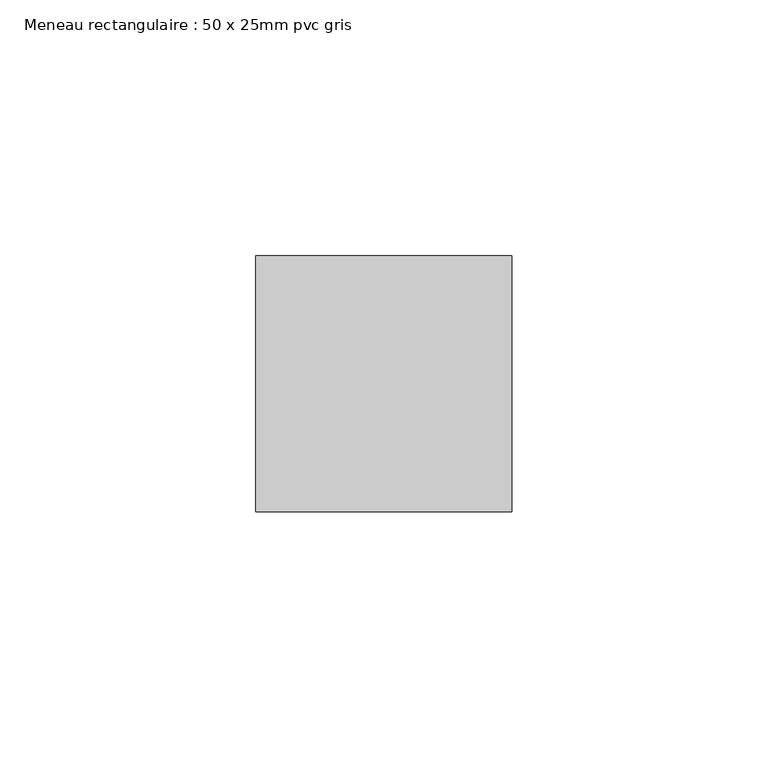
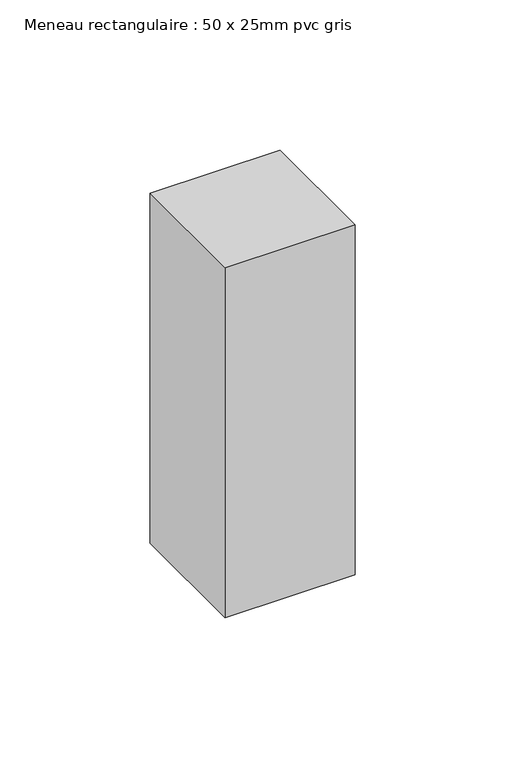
"""IFC4 building model written with IfcOpenShell, lengths in millimetres: member geometry, Meneau rectangulaire : 50 x 25mm pvc gris."""

import ifcopenshell
import ifcopenshell.guid

model = None  # the IFC model being written
_history = None  # IfcOwnerHistory: only IFC2X3 demands one
_inside = {}  # id of a spatial element -> (the spatial element, [elements in it])
_under = {}  # id of a project, library or spatial element -> (it, [spatial elements below it])
_declared = {}  # id of a project -> (the project, [libraries it declares])
_typed = {}  # id of a type object -> (the type object, [elements of that type])
_made_of = {}  # id of a material, layer set ... -> (it, [elements and type objects made of it])


def new_model(schema):
    """Start an empty IFC model of exactly this schema.

    Asked for "IFC4X3", IfcOpenShell would pick the latest addendum, in which some entities
    have other attributes; the version numbers below select the first issue.
    IFC2X3 requires an IfcOwnerHistory on every rooted entity: one is made here for all.
    """
    global model, _history
    if schema == "IFC4X3":
        model = ifcopenshell.file(schema_version=(4, 3, 0, 0))
    else:
        model = ifcopenshell.file(schema=schema)
    _inside.clear()
    _under.clear()
    _declared.clear()
    _typed.clear()
    _made_of.clear()
    _history = None
    if model.schema == "IFC2X3":
        org = make("IfcOrganization", Name="unknown")
        user = make(
            "IfcPersonAndOrganization",
            ThePerson=make("IfcPerson", FamilyName="unknown"),
            TheOrganization=org,
        )
        app = make(
            "IfcApplication",
            ApplicationDeveloper=org,
            Version="unknown",
            ApplicationFullName="unknown",
            ApplicationIdentifier="unknown",
        )
        _history = make(
            "IfcOwnerHistory",
            OwningUser=user,
            OwningApplication=app,
            ChangeAction="ADDED",
            CreationDate=0,
        )
    return model


def make(cls, **values):
    """One entity of the class cls with the attributes given. An attribute that is None is left unset."""
    return model.create_entity(
        cls, **{name: value for name, value in values.items() if value is not None}
    )


def rooted(cls, **values):
    """An entity with a GlobalId (a new one), such as an element, a storey or a relation."""
    return make(cls, GlobalId=ifcopenshell.guid.new(), OwnerHistory=_history, **values)


def si_unit(unit_type, name, prefix=None):
    """IfcSIUnit, for example si_unit("LENGTHUNIT", "METRE", prefix="MILLI")."""
    return make("IfcSIUnit", UnitType=unit_type, Prefix=prefix, Name=name)


def assignment(units):
    """IfcUnitAssignment: the units of a project."""
    return None if units is None else make("IfcUnitAssignment", Units=units)


def point(xyz):
    """IfcCartesianPoint."""
    return None if xyz is None else make("IfcCartesianPoint", Coordinates=xyz)


def direction(xyz):
    """IfcDirection."""
    return None if xyz is None else make("IfcDirection", DirectionRatios=xyz)


def frame(location, z_axis=None, x_axis=None):
    """IfcAxis2Placement3D, a coordinate frame: its origin and axes. An axis left out is left unset."""
    return make(
        "IfcAxis2Placement3D",
        Location=point(location),
        Axis=direction(z_axis),
        RefDirection=direction(x_axis),
    )


def origin():
    """The frame at (0, 0, 0) with its axes left unset."""
    return frame((0.0, 0.0, 0.0))


def place(relative_to, where):
    """IfcLocalPlacement: puts the frame where relative to a parent placement (None: the world)."""
    return make(
        "IfcLocalPlacement", PlacementRelTo=relative_to, RelativePlacement=where
    )


def context(
    kind, dimensions, precision=None, world=None, true_north=None, identifier=None
):
    """IfcGeometricRepresentationContext, for example the 3D "Model" context."""
    return make(
        "IfcGeometricRepresentationContext",
        ContextIdentifier=identifier,
        ContextType=kind,
        CoordinateSpaceDimension=dimensions,
        Precision=precision,
        WorldCoordinateSystem=world,
        TrueNorth=true_north,
    )


def project(units=None, contexts=None):
    """IfcProject with its units and contexts."""
    return rooted(
        "IfcProject",
        Name="project",
        RepresentationContexts=contexts,
        UnitsInContext=assignment(units),
    )


def spatial(cls, under=None, at=None, **own):
    """A site, building, storey or space (cls), placed at a placement, below another one or the project."""
    s = rooted(cls, ObjectPlacement=at, **own)
    if under is not None:
        _under.setdefault(under.id(), (under, []))[1].append(s)
    return s


def polyline(points):
    """IfcPolyline through the points."""
    return make("IfcPolyline", Points=[point(p) for p in points])


def outline(outer, holes=None, kind="AREA"):
    """IfcArbitraryClosedProfileDef: a profile drawn as a closed curve; with holes, ...WithVoids."""
    if holes is None:
        return make("IfcArbitraryClosedProfileDef", ProfileType=kind, OuterCurve=outer)
    return make(
        "IfcArbitraryProfileDefWithVoids",
        ProfileType=kind,
        OuterCurve=outer,
        InnerCurves=holes,
    )


def extrude(swept, where, along, depth):
    """IfcExtrudedAreaSolid: the profile swept, set in the frame where, extruded along a direction by depth."""
    return make(
        "IfcExtrudedAreaSolid",
        SweptArea=swept,
        Position=where,
        ExtrudedDirection=direction(along),
        Depth=depth,
    )


def shape(context_of_items, identifier, shape_type, items):
    """IfcShapeRepresentation: the items that make up one representation, for example the "Body"."""
    return make(
        "IfcShapeRepresentation",
        ContextOfItems=context_of_items,
        RepresentationIdentifier=identifier,
        RepresentationType=shape_type,
        Items=items,
    )


def source(mapping_origin, context_of_items, identifier, shape_type, items):
    """IfcRepresentationMap: a shape defined once, which mapped items show again and again."""
    return make(
        "IfcRepresentationMap",
        MappingOrigin=mapping_origin,
        MappedRepresentation=shape(context_of_items, identifier, shape_type, items),
    )


def transform(
    local_origin,
    x_axis=None,
    y_axis=None,
    z_axis=None,
    scale=None,
    scale2=None,
    scale3=None,
    uniform=True,
):
    """IfcCartesianTransformationOperator3D, or its non-uniform kind. x_axis, y_axis, z_axis: its Axis1, 2, 3."""
    if uniform:
        return make(
            "IfcCartesianTransformationOperator3D",
            Axis1=direction(x_axis),
            Axis2=direction(y_axis),
            LocalOrigin=point(local_origin),
            Scale=scale,
            Axis3=direction(z_axis),
        )
    return make(
        "IfcCartesianTransformationOperator3DnonUniform",
        Axis1=direction(x_axis),
        Axis2=direction(y_axis),
        LocalOrigin=point(local_origin),
        Scale=scale,
        Axis3=direction(z_axis),
        Scale2=scale2,
        Scale3=scale3,
    )


def mapped(mapping_source, mapping_target):
    """IfcMappedItem: shows the shape of a source again, moved by a transform."""
    return make(
        "IfcMappedItem", MappingSource=mapping_source, MappingTarget=mapping_target
    )


def made_of(thing, what):
    """Note that an element or type object is made of a material, layer set ...; save() writes the relation."""
    if what is not None:
        _made_of.setdefault(what.id(), (what, []))[1].append(thing)
    return thing


def element(
    cls,
    number,
    at=None,
    inside=None,
    cuts=None,
    type_object=None,
    material=None,
    context=None,
    identifier="Body",
    shape_type=None,
    held_by="IfcProductDefinitionShape",
    body=None,
    shapes=None,
    **own,
):
    """One element of the class cls, such as IfcWall. Its Tag is "e" and its number.

    at: its placement. inside: the storey or other place that contains it. cuts: it is an
    opening in that element (IfcRelVoidsElement). A single representation is given by context,
    identifier, shape_type and body (its items); several are given by shapes. held_by: the class
    of the entity that holds the representations. save() writes the other relations.
    """
    e = rooted(cls, Tag="e%d" % number, ObjectPlacement=at, **own)
    if body is not None:
        shapes = [shape(context, identifier, shape_type, body)]
    if shapes is not None:
        e.Representation = make(held_by, Representations=shapes)
    if inside is not None:
        _inside.setdefault(inside.id(), (inside, []))[1].append(e)
    if cuts is not None:
        rooted(
            "IfcRelVoidsElement", RelatingBuildingElement=cuts, RelatedOpeningElement=e
        )
    if type_object is not None:
        _typed.setdefault(type_object.id(), (type_object, []))[1].append(e)
    return made_of(e, material)


def aggregate(whole, parts):
    """IfcRelAggregates: a whole, such as a stair, and the parts it consists of."""
    return rooted("IfcRelAggregates", RelatingObject=whole, RelatedObjects=parts)


def save(model, path):
    """Write the relations noted so far, then the file.

    IfcRelAggregates (storeys below a building ...), IfcRelContainedInSpatialStructure (elements
    in a storey), IfcRelDefinesByType, IfcRelAssociatesMaterial and IfcRelDeclares: one each for
    every whole, place, type object, material and project.
    """
    for whole, parts in _under.values():
        aggregate(whole, parts)
    for where, things in _inside.values():
        rooted(
            "IfcRelContainedInSpatialStructure",
            RelatedElements=things,
            RelatingStructure=where,
        )
    for kind, things in _typed.values():
        rooted("IfcRelDefinesByType", RelatedObjects=things, RelatingType=kind)
    for what, things in _made_of.values():
        rooted("IfcRelAssociatesMaterial", RelatedObjects=things, RelatingMaterial=what)
    for by, libraries in _declared.values():
        rooted("IfcRelDeclares", RelatingContext=by, RelatedDefinitions=libraries)
    model.write(path)


def meneau_rectangulaire_50_x_25mm_pvc_gris_962c85e5(model_context):
    return source(origin(), model_context, "Body", "SweptSolid", [
        extrude(outline(polyline([(0.0, 0.0), (0.0, -50.0), (-50.0, -50.0), (-50.0, 0.0), (0.0, 0.0)])), frame((0.0, 0.0, -142.3081842), z_axis=(0.0, 0.0, 1.0), x_axis=(1.0, 0.0, 0.0)), (0.0, 0.0, 1.0), 142.3081842),
    ])


if __name__ == "__main__":
    model = new_model("IFC4")
    model_context = context("Model", 3, world=origin())
    ifc_project = project(units=[si_unit("LENGTHUNIT", "METRE", prefix="MILLI")], contexts=[model_context])
    site = spatial("IfcSite", under=ifc_project)
    building = spatial("IfcBuilding", under=site)
    placement = place(None, origin())
    meneau_rectangulaire_50_x_25mm_pvc_gris_shape = meneau_rectangulaire_50_x_25mm_pvc_gris_962c85e5(model_context)
    element("IfcMember", 1, ObjectType="Meneau rectangulaire : 50 x 25mm pvc gris", at=placement, inside=building, context=model_context, shape_type="MappedRepresentation", body=[
        mapped(meneau_rectangulaire_50_x_25mm_pvc_gris_shape, transform((0.0, 0.0, 0.0), x_axis=(1.0, 0.0, 0.0), y_axis=(0.0, 1.0, 0.0), z_axis=(0.0, 0.0, 1.0))),
    ])
    save(model, "model.ifc")
